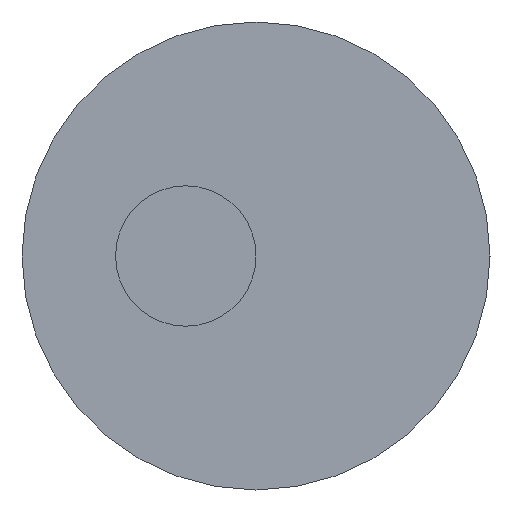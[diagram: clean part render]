
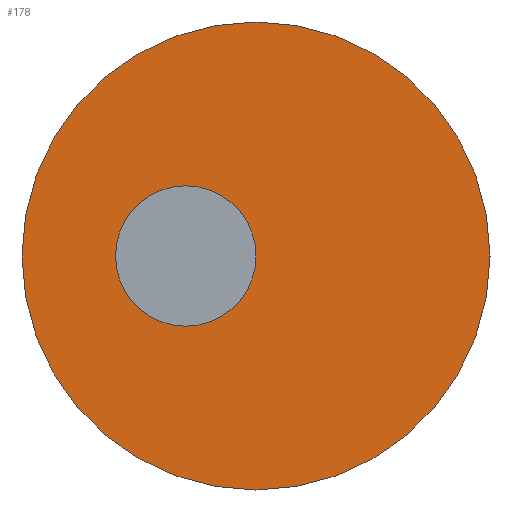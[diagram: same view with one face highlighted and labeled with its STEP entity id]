
A CAD part, left-side view. The second image highlights one B-rep face of the part: STEP entity #178.
In plain terms, the highlighted planar face has unit normal (-1, 0, 0).
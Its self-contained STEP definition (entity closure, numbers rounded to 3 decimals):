
#178 = ADVANCED_FACE( '', ( #235, #236 ), #237, .F. );
#235 = FACE_OUTER_BOUND( '', #331, .T. );
#236 = FACE_BOUND( '', #332, .T. );
#237 = PLANE( '', #333 );
#331 = EDGE_LOOP( '', ( #405 ) );
#332 = EDGE_LOOP( '', ( #406 ) );
#333 = AXIS2_PLACEMENT_3D( '', #407, #408, #409 );
#394 = EDGE_CURVE( '', #583, #583, #584, .T. );
#405 = ORIENTED_EDGE( '', *, *, #394, .T. );
#406 = ORIENTED_EDGE( '', *, *, #587, .F. );
#407 = CARTESIAN_POINT( '', ( -36., 0., 5. ) );
#408 = DIRECTION( '', ( 1., 0., 0. ) );
#409 = DIRECTION( '', ( 0., 0., -1. ) );
#583 = VERTEX_POINT( '', #652 );
#584 = CIRCLE( '', #653, 5. );
#587 = EDGE_CURVE( '', #657, #657, #658, .F. );
#652 = CARTESIAN_POINT( '', ( -36., 0., 5. ) );
#653 = AXIS2_PLACEMENT_3D( '', #749, #750, #751 );
#657 = VERTEX_POINT( '', #754 );
#658 = CIRCLE( '', #755, 1.5 );
#749 = CARTESIAN_POINT( '', ( -36., 0., 0. ) );
#750 = DIRECTION( '', ( -1., 0., 0. ) );
#751 = DIRECTION( '', ( 0., 0., 1. ) );
#754 = CARTESIAN_POINT( '', ( -36., 1.5, -1.5 ) );
#755 = AXIS2_PLACEMENT_3D( '', #935, #936, #937 );
#935 = CARTESIAN_POINT( '', ( -36., 1.5, 0. ) );
#936 = DIRECTION( '', ( 1., 0., 0. ) );
#937 = DIRECTION( '', ( 0., 0., -1. ) );
